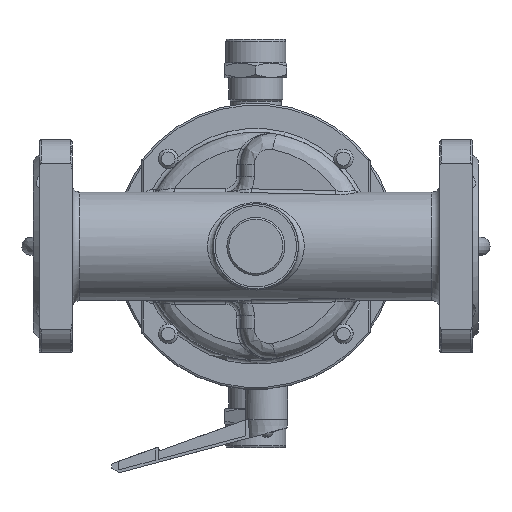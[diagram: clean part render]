
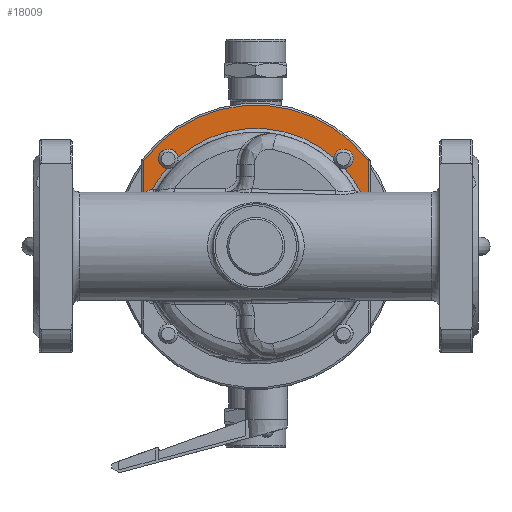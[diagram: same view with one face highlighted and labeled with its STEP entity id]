
A CAD part, front view. The second image highlights one B-rep face of the part: STEP entity #18009.
In plain terms, the highlighted planar face has unit normal (0, -1, 0).
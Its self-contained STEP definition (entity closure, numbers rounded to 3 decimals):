
#18009=ADVANCED_FACE('',(#40406),#40408,.F.);
#40406=FACE_BOUND('',#40407,.T.);
#40407=EDGE_LOOP('',(#72413,#72414,#72415,#72416,#72417,#72418,#72419,#72420,#72421));
#40408=PLANE('',#40409);
#40409=AXIS2_PLACEMENT_3D('',#40410,#40411,#40412);
#40410=CARTESIAN_POINT('',(0.,35.,0.));
#40411=DIRECTION('',(0.,1.,0.));
#40412=DIRECTION('',(1.,0.,0.));
#72413=ORIENTED_EDGE('',*,*,#83319,.F.);
#72414=ORIENTED_EDGE('',*,*,#83320,.T.);
#72415=ORIENTED_EDGE('',*,*,#83321,.F.);
#72416=ORIENTED_EDGE('',*,*,#83322,.T.);
#72417=ORIENTED_EDGE('',*,*,#83184,.F.);
#72418=ORIENTED_EDGE('',*,*,#83181,.F.);
#72419=ORIENTED_EDGE('',*,*,#83178,.F.);
#72420=ORIENTED_EDGE('',*,*,#83318,.F.);
#72421=ORIENTED_EDGE('',*,*,#83323,.T.);
#83178=EDGE_CURVE('',#95310,#95313,#95314,.T.);
#83181=EDGE_CURVE('',#95313,#95317,#95318,.T.);
#83184=EDGE_CURVE('',#95317,#95321,#95322,.T.);
#83318=EDGE_CURVE('',#95559,#95310,#95561,.F.);
#83319=EDGE_CURVE('',#95562,#95563,#95564,.F.);
#83320=EDGE_CURVE('',#95562,#95565,#95566,.T.);
#83321=EDGE_CURVE('',#95567,#95565,#95568,.F.);
#83322=EDGE_CURVE('',#95567,#95321,#95569,.T.);
#83323=EDGE_CURVE('',#95559,#95563,#95570,.T.);
#95310=VERTEX_POINT('',#126693);
#95313=VERTEX_POINT('',#126718);
#95314=LINE('',#126719,#126720);
#95317=VERTEX_POINT('',#126730);
#95318=CIRCLE('',#126731,73.);
#95321=VERTEX_POINT('',#126743);
#95322=LINE('',#126744,#126745);
#95559=VERTEX_POINT('',#128950);
#95561=CIRCLE('',#128955,10.);
#95562=VERTEX_POINT('',#128959);
#95563=VERTEX_POINT('',#128960);
#95564=CIRCLE('',#128961,5.);
#95565=VERTEX_POINT('',#128965);
#95566=CIRCLE('',#128966,61.);
#95567=VERTEX_POINT('',#128970);
#95568=CIRCLE('',#128971,5.);
#95569=CIRCLE('',#128975,61.);
#95570=CIRCLE('',#128979,61.);
#126693=CARTESIAN_POINT('',(-58.,35.,27.141));
#126718=CARTESIAN_POINT('',(-58.,35.,44.328));
#126719=CARTESIAN_POINT('',(-58.,35.,27.141));
#126720=VECTOR('',#126721,1.);
#126721=DIRECTION('',(0.,0.,1.));
#126730=CARTESIAN_POINT('',(58.,35.,44.328));
#126731=AXIS2_PLACEMENT_3D('',#126732,#126733,#126734);
#126732=CARTESIAN_POINT('',(0.,35.,0.));
#126733=DIRECTION('',(0.,1.,0.));
#126734=DIRECTION('',(-0.795,0.,0.607));
#126743=CARTESIAN_POINT('',(58.,35.,18.894));
#126744=CARTESIAN_POINT('',(58.,35.,44.328));
#126745=VECTOR('',#126746,1.);
#126746=DIRECTION('',(0.,0.,-1.));
#128950=CARTESIAN_POINT('',(-53.258,35.,29.742));
#128955=AXIS2_PLACEMENT_3D('',#128956,#128957,#128958);
#128956=CARTESIAN_POINT('',(-51.,35.,20.));
#128957=DIRECTION('',(0.,1.,0.));
#128958=DIRECTION('',(-0.7,0.,0.714));
#128959=CARTESIAN_POINT('',(-40.285,35.,45.805));
#128960=CARTESIAN_POINT('',(-45.805,35.,40.285));
#128961=AXIS2_PLACEMENT_3D('',#128962,#128963,#128964);
#128962=CARTESIAN_POINT('',(-45.255,35.,45.255));
#128963=DIRECTION('',(0.,1.,0.));
#128964=DIRECTION('',(-0.11,0.,-0.994));
#128965=CARTESIAN_POINT('',(40.285,35.,45.805));
#128966=AXIS2_PLACEMENT_3D('',#128967,#128968,#128969);
#128967=CARTESIAN_POINT('',(0.,35.,0.));
#128968=DIRECTION('',(0.,1.,0.));
#128969=DIRECTION('',(-0.66,0.,0.751));
#128970=CARTESIAN_POINT('',(45.805,35.,40.285));
#128971=AXIS2_PLACEMENT_3D('',#128972,#128973,#128974);
#128972=CARTESIAN_POINT('',(45.255,35.,45.255));
#128973=DIRECTION('',(0.,1.,0.));
#128974=DIRECTION('',(-0.994,0.,0.11));
#128975=AXIS2_PLACEMENT_3D('',#128976,#128977,#128978);
#128976=CARTESIAN_POINT('',(0.,35.,0.));
#128977=DIRECTION('',(0.,1.,0.));
#128978=DIRECTION('',(0.751,0.,0.66));
#128979=AXIS2_PLACEMENT_3D('',#128980,#128981,#128982);
#128980=CARTESIAN_POINT('',(0.,35.,0.));
#128981=DIRECTION('',(0.,1.,0.));
#128982=DIRECTION('',(-0.873,0.,0.488));
